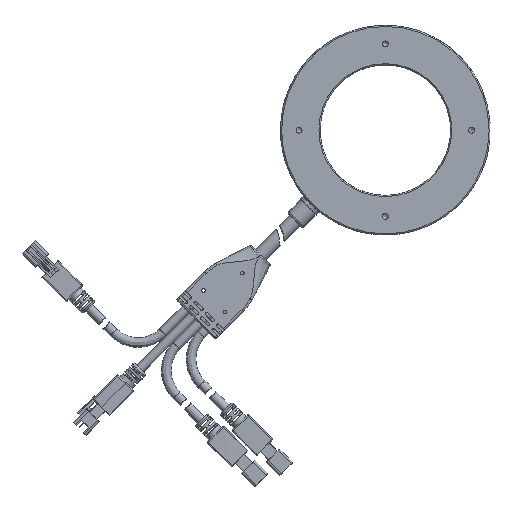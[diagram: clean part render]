
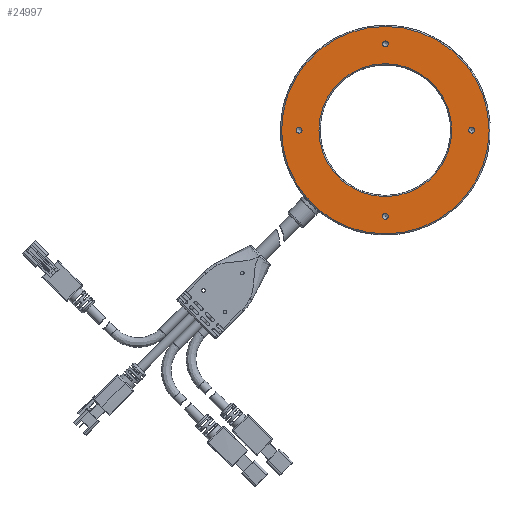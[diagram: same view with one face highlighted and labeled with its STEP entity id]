
A CAD part, front view. The second image highlights one B-rep face of the part: STEP entity #24997.
In plain terms, the highlighted planar face has unit normal (0, -1, 0).
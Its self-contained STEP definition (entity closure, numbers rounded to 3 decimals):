
#2153 = DIRECTION ( 'NONE',  ( 0., -1., 0. ) ) ;
#3689 = DIRECTION ( 'NONE',  ( 0., 0., 1. ) ) ;
#5440 = AXIS2_PLACEMENT_3D ( 'NONE', #31342, #31518, #35360 ) ;
#5996 = CIRCLE ( 'NONE', #38939, 44.5 ) ;
#6247 = EDGE_LOOP ( 'NONE', ( #26419 ) ) ;
#6337 = DIRECTION ( 'NONE',  ( 0., 0., 1. ) ) ;
#7121 = FACE_BOUND ( 'NONE', #43432, .T. ) ;
#7745 = CARTESIAN_POINT ( 'NONE',  ( 0., 21.931, 0. ) ) ;
#8211 = DIRECTION ( 'NONE',  ( 0., 0., 1. ) ) ;
#8440 = FACE_BOUND ( 'NONE', #49013, .T. ) ;
#10083 = VERTEX_POINT ( 'NONE', #16753 ) ;
#10157 = AXIS2_PLACEMENT_3D ( 'NONE', #47573, #17754, #21645 ) ;
#10821 = EDGE_CURVE ( 'NONE', #10083, #10083, #19665, .T. ) ;
#10941 = DIRECTION ( 'NONE',  ( 0., 1., 0. ) ) ;
#12000 = DIRECTION ( 'NONE',  ( 0., 1., 0. ) ) ;
#12171 = CARTESIAN_POINT ( 'NONE',  ( 37., 21.931, 0. ) ) ;
#13279 = ORIENTED_EDGE ( 'NONE', *, *, #40706, .T. ) ;
#14065 = CIRCLE ( 'NONE', #10157, 1.25 ) ;
#15883 = ORIENTED_EDGE ( 'NONE', *, *, #22638, .T. ) ;
#15924 = CIRCLE ( 'NONE', #33679, 1.25 ) ;
#16284 = FACE_BOUND ( 'NONE', #53862, .T. ) ;
#16753 = CARTESIAN_POINT ( 'NONE',  ( 0., 21.931, 28.5 ) ) ;
#16939 = CARTESIAN_POINT ( 'NONE',  ( 0., 21.931, 38.25 ) ) ;
#17675 = EDGE_LOOP ( 'NONE', ( #13279 ) ) ;
#17754 = DIRECTION ( 'NONE',  ( 0., 1., 0. ) ) ;
#18399 = EDGE_CURVE ( 'NONE', #50726, #50726, #15924, .T. ) ;
#19353 = DIRECTION ( 'NONE',  ( 0., 0., 1. ) ) ;
#19579 = ORIENTED_EDGE ( 'NONE', *, *, #48413, .T. ) ;
#19665 = CIRCLE ( 'NONE', #48991, 28.5 ) ;
#20939 = FACE_BOUND ( 'NONE', #39141, .T. ) ;
#20986 = AXIS2_PLACEMENT_3D ( 'NONE', #36067, #10941, #45307 ) ;
#21645 = DIRECTION ( 'NONE',  ( 0., 0., 1. ) ) ;
#21914 = EDGE_CURVE ( 'NONE', #43540, #43540, #14065, .T. ) ;
#22638 = EDGE_CURVE ( 'NONE', #46199, #46199, #48374, .T. ) ;
#22907 = FACE_OUTER_BOUND ( 'NONE', #17675, .T. ) ;
#23208 = CARTESIAN_POINT ( 'NONE',  ( 0., 21.931, -37. ) ) ;
#24196 = CARTESIAN_POINT ( 'NONE',  ( 0., 21.931, 44.5 ) ) ;
#24905 = AXIS2_PLACEMENT_3D ( 'NONE', #12171, #36367, #8211 ) ;
#24997 = ADVANCED_FACE ( 'NONE', ( #47922, #22907, #16284, #8440, #20939, #7121 ), #49148, .F. ) ;
#25398 = CARTESIAN_POINT ( 'NONE',  ( 0., 21.931, -35.75 ) ) ;
#26382 = VERTEX_POINT ( 'NONE', #33570 ) ;
#26419 = ORIENTED_EDGE ( 'NONE', *, *, #10821, .T. ) ;
#27332 = CARTESIAN_POINT ( 'NONE',  ( 0., 21.931, 0. ) ) ;
#29655 = VERTEX_POINT ( 'NONE', #24196 ) ;
#31342 = CARTESIAN_POINT ( 'NONE',  ( -37., 21.931, 0. ) ) ;
#31518 = DIRECTION ( 'NONE',  ( 0., 1., 0. ) ) ;
#33570 = CARTESIAN_POINT ( 'NONE',  ( -37., 21.931, 1.25 ) ) ;
#33679 = AXIS2_PLACEMENT_3D ( 'NONE', #23208, #44354, #19353 ) ;
#35360 = DIRECTION ( 'NONE',  ( 0., 0., 1. ) ) ;
#36067 = CARTESIAN_POINT ( 'NONE',  ( -28., 21.931, 0. ) ) ;
#36367 = DIRECTION ( 'NONE',  ( 0., 1., 0. ) ) ;
#37512 = ORIENTED_EDGE ( 'NONE', *, *, #18399, .T. ) ;
#38939 = AXIS2_PLACEMENT_3D ( 'NONE', #27332, #2153, #6337 ) ;
#39141 = EDGE_LOOP ( 'NONE', ( #53124 ) ) ;
#39595 = CIRCLE ( 'NONE', #5440, 1.25 ) ;
#40706 = EDGE_CURVE ( 'NONE', #29655, #29655, #5996, .T. ) ;
#43432 = EDGE_LOOP ( 'NONE', ( #15883 ) ) ;
#43540 = VERTEX_POINT ( 'NONE', #16939 ) ;
#44354 = DIRECTION ( 'NONE',  ( 0., 1., 0. ) ) ;
#45307 = DIRECTION ( 'NONE',  ( 0., 0., 1. ) ) ;
#46199 = VERTEX_POINT ( 'NONE', #49745 ) ;
#47573 = CARTESIAN_POINT ( 'NONE',  ( 0., 21.931, 37. ) ) ;
#47922 = FACE_BOUND ( 'NONE', #6247, .T. ) ;
#48374 = CIRCLE ( 'NONE', #24905, 1.25 ) ;
#48413 = EDGE_CURVE ( 'NONE', #26382, #26382, #39595, .T. ) ;
#48991 = AXIS2_PLACEMENT_3D ( 'NONE', #7745, #12000, #3689 ) ;
#49013 = EDGE_LOOP ( 'NONE', ( #19579 ) ) ;
#49148 = PLANE ( 'NONE',  #20986 ) ;
#49745 = CARTESIAN_POINT ( 'NONE',  ( 37., 21.931, 1.25 ) ) ;
#50726 = VERTEX_POINT ( 'NONE', #25398 ) ;
#53124 = ORIENTED_EDGE ( 'NONE', *, *, #21914, .T. ) ;
#53862 = EDGE_LOOP ( 'NONE', ( #37512 ) ) ;
